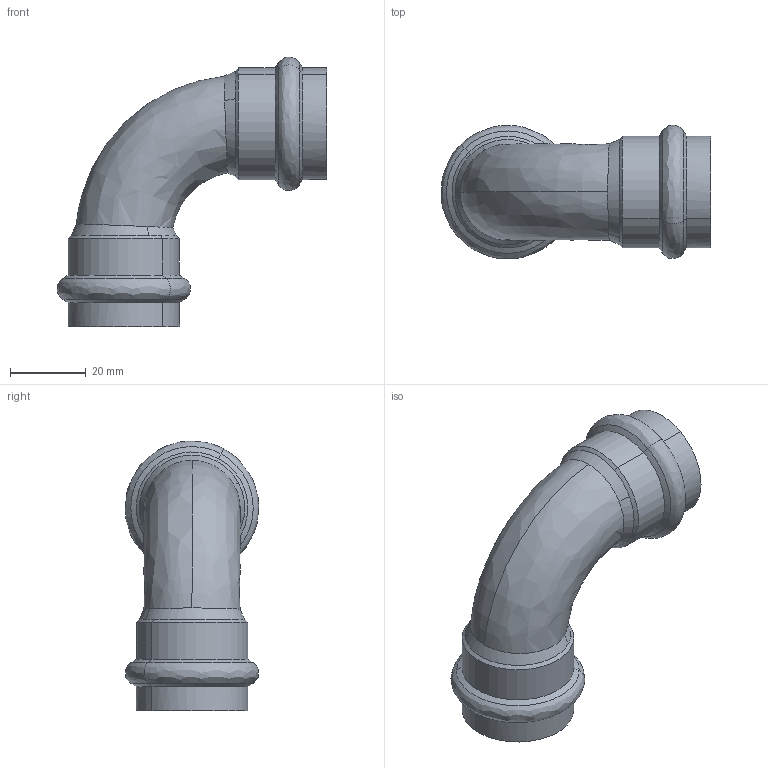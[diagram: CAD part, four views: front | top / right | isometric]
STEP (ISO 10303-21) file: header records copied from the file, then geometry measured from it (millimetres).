
FILE_DESCRIPTION(('STEP AP214'),'1');
FILE_NAME('pim0004430.stp','2015-04-30T05:07:57',('Cad-Pim'),('TransMagic, Inc.'),'TMR11sp0','TransMagic R11',' ');
FILE_SCHEMA(('AUTOMOTIVE_DESIGN'));
Length unit declared in the file: millimetre
Products named in the file (1): pim0004430
Bounding box: 71.04 x 35.16 x 71.08 mm (x, y, z)
Volume: 35732.7 mm3; surface area: 13944.3 mm2
Topology: 1 solids, 1 shells, 38 faces, 110 edges, 76 vertices
Faces by surface type: cone 16, cylinder 12, bspline 10
Entity records: 2347 total; most frequent: CARTESIAN_POINT 1160, ORIENTED_EDGE 220, DIRECTION 142, EDGE_CURVE 110, VERTEX_POINT 76, AXIS2_PLACEMENT_3D 57, EDGE_LOOP 40, STYLED_ITEM 39
